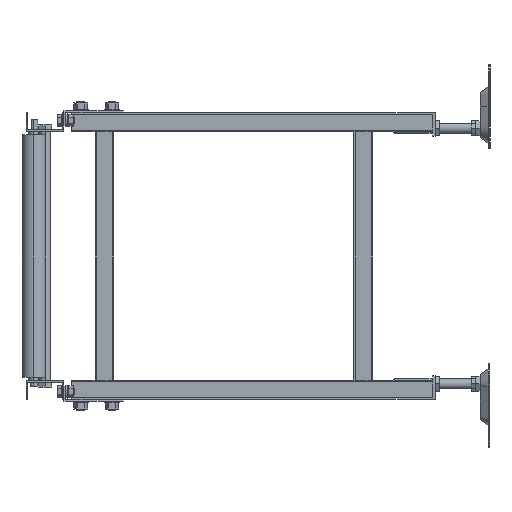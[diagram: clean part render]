
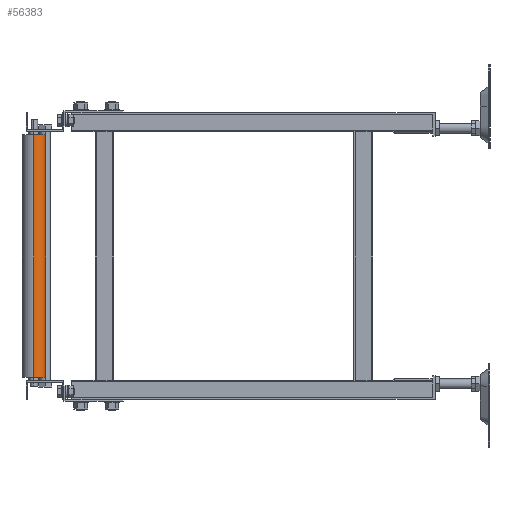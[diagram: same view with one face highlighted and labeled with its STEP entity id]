
A CAD part, left-side view. The second image highlights one B-rep face of the part: STEP entity #56383.
In plain terms, the highlighted cylindrical face has radius 19.05 mm (diameter 38.1 mm), a partial arc.
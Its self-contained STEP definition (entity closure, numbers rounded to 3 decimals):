
#7131 = AXIS2_PLACEMENT_3D ( 'NONE', #64622, #76269, #23740 ) ;
#7758 = DIRECTION ( 'NONE',  ( -1., 0., 0. ) ) ;
#8725 = ORIENTED_EDGE ( 'NONE', *, *, #25194, .T. ) ;
#10494 = EDGE_CURVE ( 'NONE', #50760, #62747, #37057, .T. ) ;
#12207 = CARTESIAN_POINT ( 'NONE',  ( -2952.95, -19.05, -194. ) ) ;
#13715 = ORIENTED_EDGE ( 'NONE', *, *, #10494, .F. ) ;
#15437 = CARTESIAN_POINT ( 'NONE',  ( -2991.05, -19.05, -194. ) ) ;
#16384 = CARTESIAN_POINT ( 'NONE',  ( -2991.05, -19.05, 194. ) ) ;
#16678 = VECTOR ( 'NONE', #23319, 1000. ) ;
#18576 = EDGE_CURVE ( 'NONE', #40149, #50760, #27758, .T. ) ;
#20887 = VERTEX_POINT ( 'NONE', #16384 ) ;
#23319 = DIRECTION ( 'NONE',  ( 0., 0., -1. ) ) ;
#23740 = DIRECTION ( 'NONE',  ( -1., 0., 0. ) ) ;
#23816 = FACE_OUTER_BOUND ( 'NONE', #64690, .T. ) ;
#24705 = CYLINDRICAL_SURFACE ( 'NONE', #7131, 19.05 ) ;
#25194 = EDGE_CURVE ( 'NONE', #20887, #62747, #37927, .T. ) ;
#27758 = LINE ( 'NONE', #58490, #48967 ) ;
#32602 = EDGE_CURVE ( 'NONE', #40149, #20887, #39443, .T. ) ;
#35135 = AXIS2_PLACEMENT_3D ( 'NONE', #72551, #73070, #7758 ) ;
#37057 = CIRCLE ( 'NONE', #57997, 19.05 ) ;
#37927 = LINE ( 'NONE', #58047, #16678 ) ;
#39443 = CIRCLE ( 'NONE', #35135, 19.05 ) ;
#40149 = VERTEX_POINT ( 'NONE', #63554 ) ;
#45839 = DIRECTION ( 'NONE',  ( -1., 0., 0. ) ) ;
#48967 = VECTOR ( 'NONE', #58001, 1000. ) ;
#50760 = VERTEX_POINT ( 'NONE', #12207 ) ;
#56383 = ADVANCED_FACE ( 'NONE', ( #23816 ), #24705, .T. ) ;
#57600 = DIRECTION ( 'NONE',  ( 0., 0., -1. ) ) ;
#57997 = AXIS2_PLACEMENT_3D ( 'NONE', #61991, #57600, #45839 ) ;
#58001 = DIRECTION ( 'NONE',  ( 0., 0., -1. ) ) ;
#58047 = CARTESIAN_POINT ( 'NONE',  ( -2991.05, -19.05, -230.422 ) ) ;
#58490 = CARTESIAN_POINT ( 'NONE',  ( -2952.95, -19.05, -230.422 ) ) ;
#59146 = ORIENTED_EDGE ( 'NONE', *, *, #18576, .F. ) ;
#61991 = CARTESIAN_POINT ( 'NONE',  ( -2972., -19.05, -194. ) ) ;
#62747 = VERTEX_POINT ( 'NONE', #15437 ) ;
#63554 = CARTESIAN_POINT ( 'NONE',  ( -2952.95, -19.05, 194. ) ) ;
#64622 = CARTESIAN_POINT ( 'NONE',  ( -2972., -19.05, -230.422 ) ) ;
#64690 = EDGE_LOOP ( 'NONE', ( #59146, #72159, #8725, #13715 ) ) ;
#72159 = ORIENTED_EDGE ( 'NONE', *, *, #32602, .T. ) ;
#72551 = CARTESIAN_POINT ( 'NONE',  ( -2972., -19.05, 194. ) ) ;
#73070 = DIRECTION ( 'NONE',  ( 0., 0., -1. ) ) ;
#76269 = DIRECTION ( 'NONE',  ( 0., 0., -1. ) ) ;
